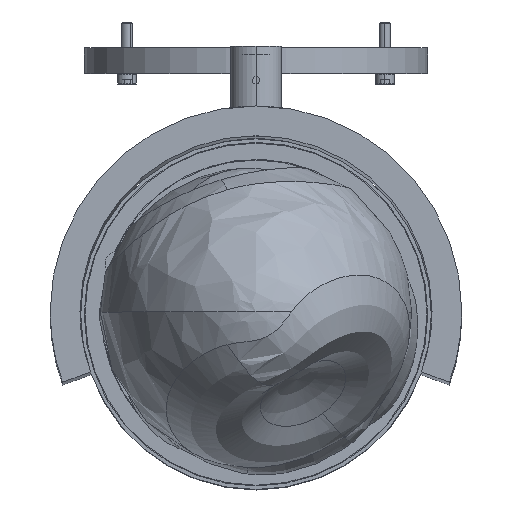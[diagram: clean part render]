
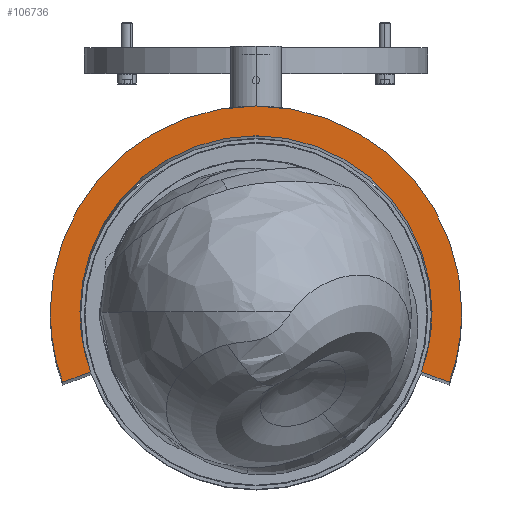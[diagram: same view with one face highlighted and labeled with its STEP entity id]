
A CAD part, top view. The second image highlights one B-rep face of the part: STEP entity #106736.
In plain terms, the highlighted planar face has unit normal (0, 0, 1).
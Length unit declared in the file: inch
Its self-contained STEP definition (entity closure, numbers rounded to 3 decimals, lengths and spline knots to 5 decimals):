
#4308 = FACE_OUTER_BOUND ( 'NONE', #231251, .T. ) ;
#5232 = CIRCLE ( 'NONE', #173721, 2.55906 ) ;
#8515 = ORIENTED_EDGE ( 'NONE', *, *, #100667, .T. ) ;
#8952 = EDGE_CURVE ( 'NONE', #174826, #266277, #63731, .T. ) ;
#9033 = DIRECTION ( 'NONE',  ( 1., 0., 0. ) ) ;
#9264 = CARTESIAN_POINT ( 'NONE',  ( 0., 0., 12. ) ) ;
#19133 = CARTESIAN_POINT ( 'NONE',  ( -2.55906, 0., 12. ) ) ;
#29847 = PLANE ( 'NONE',  #243960 ) ;
#29940 = EDGE_CURVE ( 'NONE', #49320, #138460, #160273, .T. ) ;
#49320 = VERTEX_POINT ( 'NONE', #276833 ) ;
#59160 = ORIENTED_EDGE ( 'NONE', *, *, #341081, .T. ) ;
#63731 = CIRCLE ( 'NONE', #267362, 2.99213 ) ;
#65965 = EDGE_CURVE ( 'NONE', #75361, #242997, #79610, .T. ) ;
#67737 = ORIENTED_EDGE ( 'NONE', *, *, #249531, .T. ) ;
#70086 = CARTESIAN_POINT ( 'NONE',  ( 0., 0., 12. ) ) ;
#75361 = VERTEX_POINT ( 'NONE', #117933 ) ;
#79571 = VECTOR ( 'NONE', #346287, 39.37008 ) ;
#79610 = CIRCLE ( 'NONE', #126185, 2.55906 ) ;
#85498 = LINE ( 'NONE', #196617, #109741 ) ;
#90128 = ORIENTED_EDGE ( 'NONE', *, *, #65965, .T. ) ;
#90487 = DIRECTION ( 'NONE',  ( 0., 0., -1. ) ) ;
#91690 = DIRECTION ( 'NONE',  ( 1., 0., 0. ) ) ;
#98018 = AXIS2_PLACEMENT_3D ( 'NONE', #118979, #310271, #204544 ) ;
#100667 = EDGE_CURVE ( 'NONE', #216896, #185556, #5232, .T. ) ;
#106736 = ADVANCED_FACE ( 'NONE', ( #4308 ), #29847, .T. ) ;
#109741 = VECTOR ( 'NONE', #320340, 39.37008 ) ;
#116043 = ORIENTED_EDGE ( 'NONE', *, *, #8952, .F. ) ;
#116072 = EDGE_CURVE ( 'NONE', #75361, #49320, #85498, .T. ) ;
#117933 = CARTESIAN_POINT ( 'NONE',  ( -2.40473, -0.87525, 12. ) ) ;
#118979 = CARTESIAN_POINT ( 'NONE',  ( 0., 0., 12. ) ) ;
#126185 = AXIS2_PLACEMENT_3D ( 'NONE', #340092, #90487, #201597 ) ;
#131332 = ORIENTED_EDGE ( 'NONE', *, *, #29940, .F. ) ;
#138460 = VERTEX_POINT ( 'NONE', #261440 ) ;
#151837 = AXIS2_PLACEMENT_3D ( 'NONE', #9264, #171440, #286192 ) ;
#153451 = CARTESIAN_POINT ( 'NONE',  ( 2.99213, 0., 12. ) ) ;
#160273 = CIRCLE ( 'NONE', #293999, 2.99213 ) ;
#171440 = DIRECTION ( 'NONE',  ( 0., 0., -1. ) ) ;
#173221 = DIRECTION ( 'NONE',  ( 0., 0., -1. ) ) ;
#173721 = AXIS2_PLACEMENT_3D ( 'NONE', #339022, #173221, #284353 ) ;
#174826 = VERTEX_POINT ( 'NONE', #153451 ) ;
#176884 = LINE ( 'NONE', #315335, #79571 ) ;
#181219 = DIRECTION ( 'NONE',  ( 0., 0., -1. ) ) ;
#183019 = DIRECTION ( 'NONE',  ( 1., 0., 0. ) ) ;
#185556 = VERTEX_POINT ( 'NONE', #282965 ) ;
#196617 = CARTESIAN_POINT ( 'NONE',  ( -2.6082, -0.94931, 12. ) ) ;
#201597 = DIRECTION ( 'NONE',  ( 1., 0., 0. ) ) ;
#204544 = DIRECTION ( 'NONE',  ( 1., 0., 0. ) ) ;
#204817 = ORIENTED_EDGE ( 'NONE', *, *, #116072, .F. ) ;
#214209 = CARTESIAN_POINT ( 'NONE',  ( 2.81168, -1.02337, 12. ) ) ;
#216896 = VERTEX_POINT ( 'NONE', #319571 ) ;
#228347 = DIRECTION ( 'NONE',  ( 0., 0., 1. ) ) ;
#231251 = EDGE_LOOP ( 'NONE', ( #90128, #59160, #8515, #67737, #116043, #263130, #131332, #204817 ) ) ;
#233067 = CARTESIAN_POINT ( 'NONE',  ( 0., 0., 12. ) ) ;
#242997 = VERTEX_POINT ( 'NONE', #19133 ) ;
#243960 = AXIS2_PLACEMENT_3D ( 'NONE', #259284, #228347, #91690 ) ;
#249531 = EDGE_CURVE ( 'NONE', #185556, #266277, #176884, .T. ) ;
#259284 = CARTESIAN_POINT ( 'NONE',  ( 0.26133, 0.4375, 12. ) ) ;
#261440 = CARTESIAN_POINT ( 'NONE',  ( -2.99213, 0., 12. ) ) ;
#263130 = ORIENTED_EDGE ( 'NONE', *, *, #318110, .F. ) ;
#266277 = VERTEX_POINT ( 'NONE', #214209 ) ;
#267362 = AXIS2_PLACEMENT_3D ( 'NONE', #233067, #342419, #9033 ) ;
#276833 = CARTESIAN_POINT ( 'NONE',  ( -2.81168, -1.02337, 12. ) ) ;
#282965 = CARTESIAN_POINT ( 'NONE',  ( 2.40473, -0.87525, 12. ) ) ;
#284353 = DIRECTION ( 'NONE',  ( 1., 0., 0. ) ) ;
#286192 = DIRECTION ( 'NONE',  ( 1., 0., 0. ) ) ;
#293999 = AXIS2_PLACEMENT_3D ( 'NONE', #70086, #181219, #183019 ) ;
#308902 = CIRCLE ( 'NONE', #151837, 2.55906 ) ;
#310271 = DIRECTION ( 'NONE',  ( 0., 0., -1. ) ) ;
#315335 = CARTESIAN_POINT ( 'NONE',  ( 2.6082, -0.94931, 12. ) ) ;
#318110 = EDGE_CURVE ( 'NONE', #138460, #174826, #353926, .T. ) ;
#319571 = CARTESIAN_POINT ( 'NONE',  ( 2.55906, 0., 12. ) ) ;
#320340 = DIRECTION ( 'NONE',  ( -0.94, -0.342, 0. ) ) ;
#339022 = CARTESIAN_POINT ( 'NONE',  ( 0., 0., 12. ) ) ;
#340092 = CARTESIAN_POINT ( 'NONE',  ( 0., 0., 12. ) ) ;
#341081 = EDGE_CURVE ( 'NONE', #242997, #216896, #308902, .T. ) ;
#342419 = DIRECTION ( 'NONE',  ( 0., 0., -1. ) ) ;
#346287 = DIRECTION ( 'NONE',  ( 0.94, -0.342, 0. ) ) ;
#353926 = CIRCLE ( 'NONE', #98018, 2.99213 ) ;
